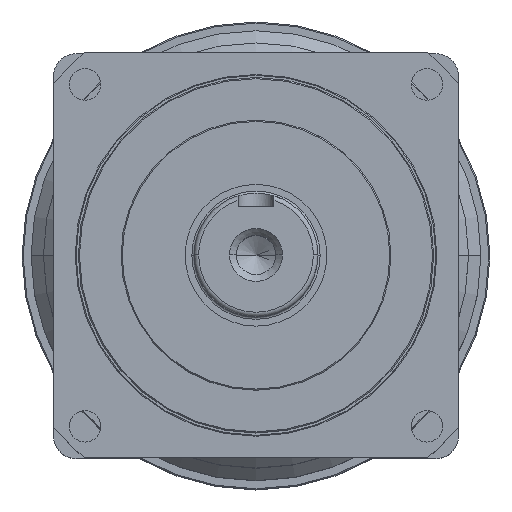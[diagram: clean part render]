
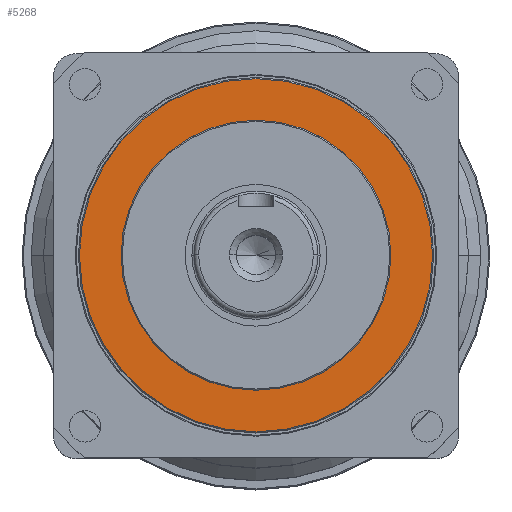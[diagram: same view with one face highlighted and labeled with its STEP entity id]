
A CAD part, top view. The second image highlights one B-rep face of the part: STEP entity #5268.
In plain terms, the highlighted planar face has unit normal (0, 0, 1).
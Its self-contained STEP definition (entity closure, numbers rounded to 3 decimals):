
#30 = CARTESIAN_POINT ( 'NONE',  ( 0., 0., 43. ) ) ;
#33 = CARTESIAN_POINT ( 'NONE',  ( -78.5, 0., 43. ) ) ;
#87 = AXIS2_PLACEMENT_3D ( 'NONE', #2158, #4622, #3360 ) ;
#172 = DIRECTION ( 'NONE',  ( 1., 0., 0. ) ) ;
#269 = EDGE_CURVE ( 'NONE', #3457, #1730, #5302, .T. ) ;
#786 = VERTEX_POINT ( 'NONE', #1709 ) ;
#793 = DIRECTION ( 'NONE',  ( 1., 0., 0. ) ) ;
#871 = ORIENTED_EDGE ( 'NONE', *, *, #4289, .F. ) ;
#893 = CIRCLE ( 'NONE', #87, 78.5 ) ;
#1274 = PLANE ( 'NONE',  #2461 ) ;
#1377 = FACE_OUTER_BOUND ( 'NONE', #3688, .T. ) ;
#1546 = AXIS2_PLACEMENT_3D ( 'NONE', #2142, #1780, #2956 ) ;
#1685 = DIRECTION ( 'NONE',  ( 0., 0., 1. ) ) ;
#1709 = CARTESIAN_POINT ( 'NONE',  ( -60., 0., 43. ) ) ;
#1730 = VERTEX_POINT ( 'NONE', #3357 ) ;
#1773 = EDGE_LOOP ( 'NONE', ( #4480, #871 ) ) ;
#1780 = DIRECTION ( 'NONE',  ( 0., 0., 1. ) ) ;
#2142 = CARTESIAN_POINT ( 'NONE',  ( 0., 0., 43. ) ) ;
#2158 = CARTESIAN_POINT ( 'NONE',  ( 0., 0., 43. ) ) ;
#2424 = ORIENTED_EDGE ( 'NONE', *, *, #2508, .T. ) ;
#2461 = AXIS2_PLACEMENT_3D ( 'NONE', #30, #1685, #2889 ) ;
#2508 = EDGE_CURVE ( 'NONE', #1730, #3457, #893, .T. ) ;
#2889 = DIRECTION ( 'NONE',  ( 1., 0., 0. ) ) ;
#2956 = DIRECTION ( 'NONE',  ( 1., 0., 0. ) ) ;
#2973 = DIRECTION ( 'NONE',  ( 0., 0., 1. ) ) ;
#3224 = ORIENTED_EDGE ( 'NONE', *, *, #269, .T. ) ;
#3357 = CARTESIAN_POINT ( 'NONE',  ( 78.5, 0., 43. ) ) ;
#3360 = DIRECTION ( 'NONE',  ( 1., 0., 0. ) ) ;
#3457 = VERTEX_POINT ( 'NONE', #33 ) ;
#3530 = CARTESIAN_POINT ( 'NONE',  ( 60., 0., 43. ) ) ;
#3678 = CARTESIAN_POINT ( 'NONE',  ( 0., 0., 43. ) ) ;
#3688 = EDGE_LOOP ( 'NONE', ( #3224, #2424 ) ) ;
#3701 = CIRCLE ( 'NONE', #4559, 60. ) ;
#3787 = VERTEX_POINT ( 'NONE', #3530 ) ;
#3882 = AXIS2_PLACEMENT_3D ( 'NONE', #3678, #2973, #793 ) ;
#3960 = CIRCLE ( 'NONE', #3882, 60. ) ;
#4289 = EDGE_CURVE ( 'NONE', #3787, #786, #3701, .T. ) ;
#4327 = CARTESIAN_POINT ( 'NONE',  ( 0., 0., 43. ) ) ;
#4480 = ORIENTED_EDGE ( 'NONE', *, *, #5009, .F. ) ;
#4559 = AXIS2_PLACEMENT_3D ( 'NONE', #4327, #4738, #172 ) ;
#4622 = DIRECTION ( 'NONE',  ( 0., 0., 1. ) ) ;
#4738 = DIRECTION ( 'NONE',  ( 0., 0., 1. ) ) ;
#5009 = EDGE_CURVE ( 'NONE', #786, #3787, #3960, .T. ) ;
#5047 = FACE_BOUND ( 'NONE', #1773, .T. ) ;
#5268 = ADVANCED_FACE ( 'NONE', ( #5047, #1377 ), #1274, .T. ) ;
#5302 = CIRCLE ( 'NONE', #1546, 78.5 ) ;
